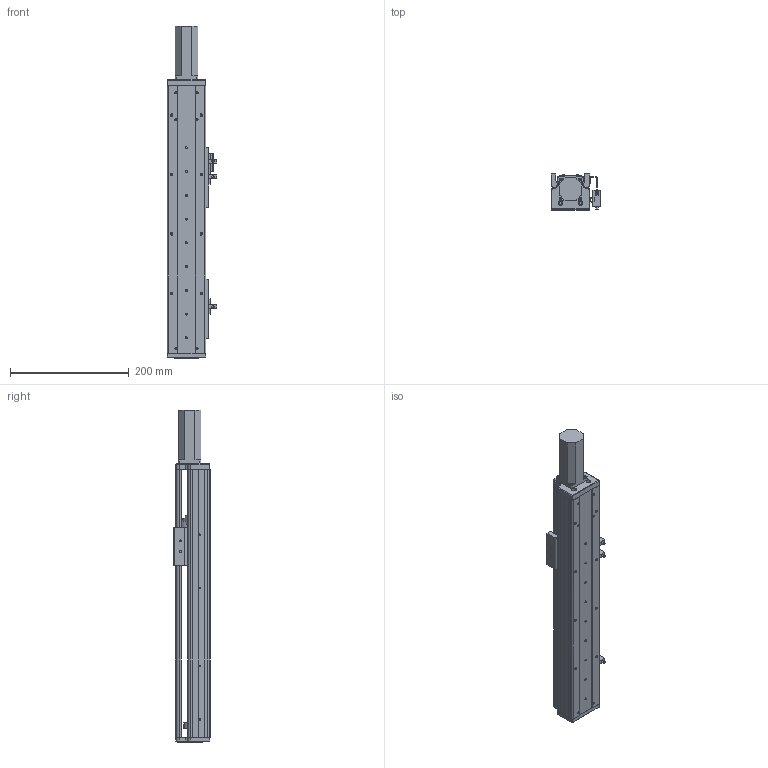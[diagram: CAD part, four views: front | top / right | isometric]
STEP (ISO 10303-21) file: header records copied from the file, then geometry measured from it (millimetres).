
FILE_DESCRIPTION (( 'STEP AP203' ), '1' );
FILE_NAME ('RY60-L1210-300-MK.SLDASM_250.step', '2021-02-20T01:55:50', ( '' ), ( '' ), 'SwSTEP 2.0', 'SolidWorks 2012', '' );
FILE_SCHEMA (( 'CONFIG_CONTROL_DESIGN' ));
Length unit declared in the file: millimetre
Products named in the file (13): SFN1210螺母(没线割）; RY60-L1210-300-MK.SLDASM_250; 滅袉蝶18-10; RY60綴裔啣; 滅袉蝶18-20; 侂狟100W; 覜茼ん672; RY60前盖板100(PCD46-M4); RY80俋离覜茼え; 672嫖萇羲壽假蚾釱; RY60-300倰第菁釱-MK_250; RY60臏賑輸; RY60-300倰第裔啣-MK_250
Assembly tree (17 placements, depth 2):
  RY60-L1210-300-MK.SLDASM_250
    RY60-300倰第菁釱-MK_250
    RY60臏賑輸
    RY60-300倰第裔啣-MK_250
    RY60前盖板100(PCD46-M4)
    672嫖萇羲壽假蚾釱  x2
    覜茼ん672  x3
    RY80俋离覜茼え
    侂狟100W
    滅袉蝶18-20  x2
    滅袉蝶18-10  x2
    RY60綴裔啣
    SFN1210螺母(没线割）
Bounding box: 83.7 x 61 x 559 mm (x, y, z)
Volume: 697062.2 mm3; surface area: 322415 mm2
Topology: 18 solids, 18 shells, 1081 faces, 3020 edges, 1954 vertices
Faces by surface type: plane 525, cylinder 488, cone 59, bspline 9
Entity records: 34456 total; most frequent: CARTESIAN_POINT 7902, ORIENTED_EDGE 5312, DIRECTION 5155, EDGE_CURVE 2656, AXIS2_PLACEMENT_3D 1785, VERTEX_POINT 1738, LINE 1585, VECTOR 1585
